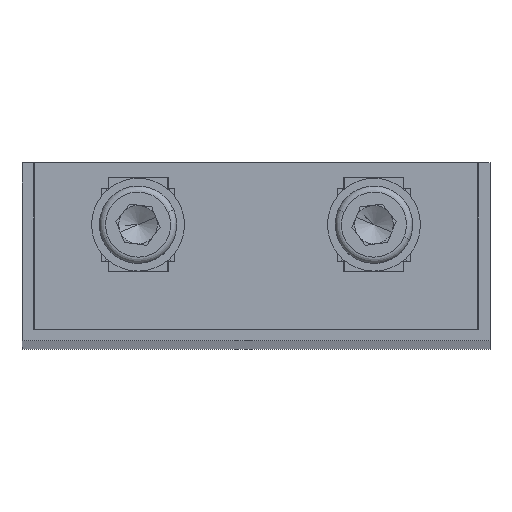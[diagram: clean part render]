
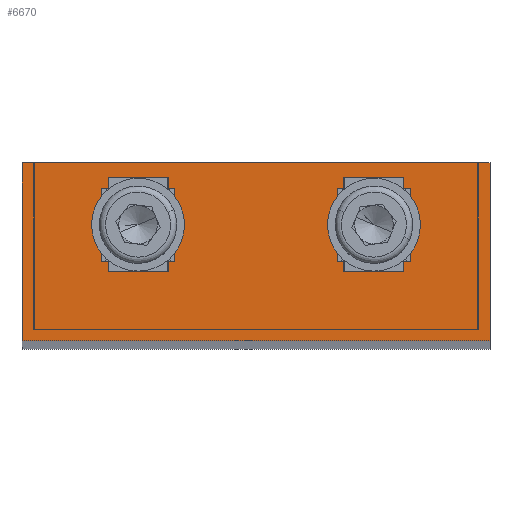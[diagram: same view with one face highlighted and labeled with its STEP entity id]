
A CAD part, top view. The second image highlights one B-rep face of the part: STEP entity #6670.
In plain terms, the highlighted planar face has unit normal (0, 0, 1).
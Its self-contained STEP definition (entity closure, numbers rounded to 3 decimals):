
#5310 = VERTEX_POINT('',#5311);
#5311 = CARTESIAN_POINT('',(-28.65,0.,307.));
#5326 = VERTEX_POINT('',#5327);
#5327 = CARTESIAN_POINT('',(28.65,0.,307.));
#5333 = EDGE_CURVE('',#5334,#5326,#5336,.T.);
#5334 = VERTEX_POINT('',#5335);
#5335 = CARTESIAN_POINT('',(28.75,0.,307.));
#5336 = LINE('',#5337,#5338);
#5337 = CARTESIAN_POINT('',(-28.75,0.,307.));
#5338 = VECTOR('',#5339,1.);
#5339 = DIRECTION('',(-1.,0.,0.));
#5390 = VERTEX_POINT('',#5391);
#5391 = CARTESIAN_POINT('',(-28.75,0.,307.));
#5397 = EDGE_CURVE('',#5390,#5310,#5398,.T.);
#5398 = LINE('',#5399,#5400);
#5399 = CARTESIAN_POINT('',(0.,0.,307.));
#5400 = VECTOR('',#5401,1.);
#5401 = DIRECTION('',(1.,0.,0.));
#5411 = EDGE_CURVE('',#5412,#5414,#5416,.T.);
#5412 = VERTEX_POINT('',#5413);
#5413 = CARTESIAN_POINT('',(-30.25,-1.5,307.));
#5414 = VERTEX_POINT('',#5415);
#5415 = CARTESIAN_POINT('',(30.25,-1.5,307.));
#5416 = LINE('',#5417,#5418);
#5417 = CARTESIAN_POINT('',(-28.75,-1.5,307.));
#5418 = VECTOR('',#5419,1.);
#5419 = DIRECTION('',(1.,0.,0.));
#5451 = EDGE_CURVE('',#5310,#5452,#5454,.T.);
#5452 = VERTEX_POINT('',#5453);
#5453 = CARTESIAN_POINT('',(-28.65,21.5,307.));
#5454 = LINE('',#5455,#5456);
#5455 = CARTESIAN_POINT('',(-28.65,0.6,307.));
#5456 = VECTOR('',#5457,1.);
#5457 = DIRECTION('',(0.,1.,0.));
#5482 = EDGE_CURVE('',#5326,#5483,#5485,.T.);
#5483 = VERTEX_POINT('',#5484);
#5484 = CARTESIAN_POINT('',(28.65,21.5,307.));
#5485 = LINE('',#5486,#5487);
#5486 = CARTESIAN_POINT('',(28.65,0.6,307.));
#5487 = VECTOR('',#5488,1.);
#5488 = DIRECTION('',(0.,1.,0.));
#5520 = EDGE_CURVE('',#5483,#5452,#5521,.T.);
#5521 = LINE('',#5522,#5523);
#5522 = CARTESIAN_POINT('',(0.,21.5,307.));
#5523 = VECTOR('',#5524,1.);
#5524 = DIRECTION('',(-1.,0.,0.));
#5626 = VERTEX_POINT('',#5627);
#5627 = CARTESIAN_POINT('',(28.75,21.5,307.));
#5633 = EDGE_CURVE('',#5626,#5634,#5636,.T.);
#5634 = VERTEX_POINT('',#5635);
#5635 = CARTESIAN_POINT('',(30.25,21.5,307.));
#5636 = LINE('',#5637,#5638);
#5637 = CARTESIAN_POINT('',(28.75,21.5,307.));
#5638 = VECTOR('',#5639,1.);
#5639 = DIRECTION('',(1.,0.,0.));
#5793 = EDGE_CURVE('',#5334,#5626,#5794,.T.);
#5794 = LINE('',#5795,#5796);
#5795 = CARTESIAN_POINT('',(28.75,0.,307.));
#5796 = VECTOR('',#5797,1.);
#5797 = DIRECTION('',(0.,1.,0.));
#6163 = EDGE_CURVE('',#5414,#5634,#6164,.T.);
#6164 = LINE('',#6165,#6166);
#6165 = CARTESIAN_POINT('',(30.25,0.,307.));
#6166 = VECTOR('',#6167,1.);
#6167 = DIRECTION('',(0.,1.,0.));
#6670 = ADVANCED_FACE('',(#6671,#6704,#6738),#6772,.F.);
#6671 = FACE_BOUND('',#6672,.T.);
#6672 = EDGE_LOOP('',(#6673,#6681,#6682,#6683,#6684,#6685,#6686,#6687,
    #6688,#6689,#6690,#6698));
#6673 = ORIENTED_EDGE('',*,*,#6674,.T.);
#6674 = EDGE_CURVE('',#6675,#5412,#6677,.T.);
#6675 = VERTEX_POINT('',#6676);
#6676 = CARTESIAN_POINT('',(-30.25,21.5,307.));
#6677 = LINE('',#6678,#6679);
#6678 = CARTESIAN_POINT('',(-30.25,21.5,307.));
#6679 = VECTOR('',#6680,1.);
#6680 = DIRECTION('',(-0.,-1.,-0.));
#6681 = ORIENTED_EDGE('',*,*,#5411,.T.);
#6682 = ORIENTED_EDGE('',*,*,#6163,.T.);
#6683 = ORIENTED_EDGE('',*,*,#5633,.F.);
#6684 = ORIENTED_EDGE('',*,*,#5793,.F.);
#6685 = ORIENTED_EDGE('',*,*,#5333,.T.);
#6686 = ORIENTED_EDGE('',*,*,#5482,.T.);
#6687 = ORIENTED_EDGE('',*,*,#5520,.T.);
#6688 = ORIENTED_EDGE('',*,*,#5451,.F.);
#6689 = ORIENTED_EDGE('',*,*,#5397,.F.);
#6690 = ORIENTED_EDGE('',*,*,#6691,.F.);
#6691 = EDGE_CURVE('',#6692,#5390,#6694,.T.);
#6692 = VERTEX_POINT('',#6693);
#6693 = CARTESIAN_POINT('',(-28.75,21.5,307.));
#6694 = LINE('',#6695,#6696);
#6695 = CARTESIAN_POINT('',(-28.75,21.5,307.));
#6696 = VECTOR('',#6697,1.);
#6697 = DIRECTION('',(0.,-1.,0.));
#6698 = ORIENTED_EDGE('',*,*,#6699,.F.);
#6699 = EDGE_CURVE('',#6675,#6692,#6700,.T.);
#6700 = LINE('',#6701,#6702);
#6701 = CARTESIAN_POINT('',(-30.25,21.5,307.));
#6702 = VECTOR('',#6703,1.);
#6703 = DIRECTION('',(1.,0.,0.));
#6704 = FACE_BOUND('',#6705,.T.);
#6705 = EDGE_LOOP('',(#6706,#6716,#6724,#6732));
#6706 = ORIENTED_EDGE('',*,*,#6707,.F.);
#6707 = EDGE_CURVE('',#6708,#6710,#6712,.T.);
#6708 = VERTEX_POINT('',#6709);
#6709 = CARTESIAN_POINT('',(-20.,18.25,307.));
#6710 = VERTEX_POINT('',#6711);
#6711 = CARTESIAN_POINT('',(-20.,8.75,307.));
#6712 = LINE('',#6713,#6714);
#6713 = CARTESIAN_POINT('',(-20.,8.75,307.));
#6714 = VECTOR('',#6715,1.);
#6715 = DIRECTION('',(-0.,-1.,-0.));
#6716 = ORIENTED_EDGE('',*,*,#6717,.F.);
#6717 = EDGE_CURVE('',#6718,#6708,#6720,.T.);
#6718 = VERTEX_POINT('',#6719);
#6719 = CARTESIAN_POINT('',(-10.5,18.25,307.));
#6720 = LINE('',#6721,#6722);
#6721 = CARTESIAN_POINT('',(-11.,18.25,307.));
#6722 = VECTOR('',#6723,1.);
#6723 = DIRECTION('',(-1.,0.,0.));
#6724 = ORIENTED_EDGE('',*,*,#6725,.F.);
#6725 = EDGE_CURVE('',#6726,#6718,#6728,.T.);
#6726 = VERTEX_POINT('',#6727);
#6727 = CARTESIAN_POINT('',(-10.5,8.75,307.));
#6728 = LINE('',#6729,#6730);
#6729 = CARTESIAN_POINT('',(-10.5,18.25,307.));
#6730 = VECTOR('',#6731,1.);
#6731 = DIRECTION('',(-0.,1.,-0.));
#6732 = ORIENTED_EDGE('',*,*,#6733,.F.);
#6733 = EDGE_CURVE('',#6710,#6726,#6734,.T.);
#6734 = LINE('',#6735,#6736);
#6735 = CARTESIAN_POINT('',(-10.5,8.75,307.));
#6736 = VECTOR('',#6737,1.);
#6737 = DIRECTION('',(1.,-0.,-0.));
#6738 = FACE_BOUND('',#6739,.T.);
#6739 = EDGE_LOOP('',(#6740,#6750,#6758,#6766));
#6740 = ORIENTED_EDGE('',*,*,#6741,.F.);
#6741 = EDGE_CURVE('',#6742,#6744,#6746,.T.);
#6742 = VERTEX_POINT('',#6743);
#6743 = CARTESIAN_POINT('',(10.5,18.25,307.));
#6744 = VERTEX_POINT('',#6745);
#6745 = CARTESIAN_POINT('',(10.5,8.75,307.));
#6746 = LINE('',#6747,#6748);
#6747 = CARTESIAN_POINT('',(10.5,8.75,307.));
#6748 = VECTOR('',#6749,1.);
#6749 = DIRECTION('',(-0.,-1.,-0.));
#6750 = ORIENTED_EDGE('',*,*,#6751,.F.);
#6751 = EDGE_CURVE('',#6752,#6742,#6754,.T.);
#6752 = VERTEX_POINT('',#6753);
#6753 = CARTESIAN_POINT('',(20.,18.25,307.));
#6754 = LINE('',#6755,#6756);
#6755 = CARTESIAN_POINT('',(11.,18.25,307.));
#6756 = VECTOR('',#6757,1.);
#6757 = DIRECTION('',(-1.,-0.,-0.));
#6758 = ORIENTED_EDGE('',*,*,#6759,.F.);
#6759 = EDGE_CURVE('',#6760,#6752,#6762,.T.);
#6760 = VERTEX_POINT('',#6761);
#6761 = CARTESIAN_POINT('',(20.,8.75,307.));
#6762 = LINE('',#6763,#6764);
#6763 = CARTESIAN_POINT('',(20.,17.75,307.));
#6764 = VECTOR('',#6765,1.);
#6765 = DIRECTION('',(0.,1.,0.));
#6766 = ORIENTED_EDGE('',*,*,#6767,.F.);
#6767 = EDGE_CURVE('',#6744,#6760,#6768,.T.);
#6768 = LINE('',#6769,#6770);
#6769 = CARTESIAN_POINT('',(19.5,8.75,307.));
#6770 = VECTOR('',#6771,1.);
#6771 = DIRECTION('',(1.,0.,0.));
#6772 = PLANE('',#6773);
#6773 = AXIS2_PLACEMENT_3D('',#6774,#6775,#6776);
#6774 = CARTESIAN_POINT('',(28.15,0.6,307.));
#6775 = DIRECTION('',(0.,0.,-1.));
#6776 = DIRECTION('',(-1.,0.,0.));
